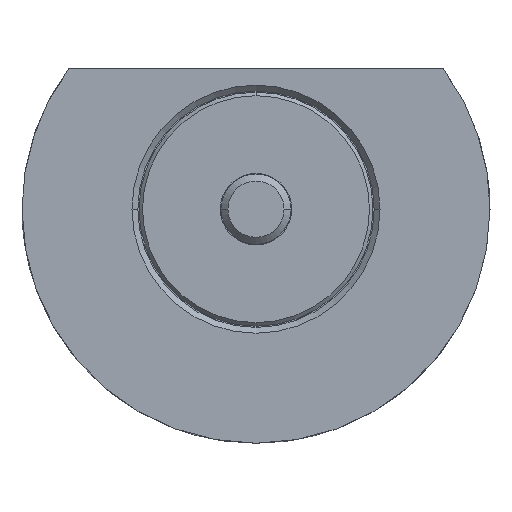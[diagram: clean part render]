
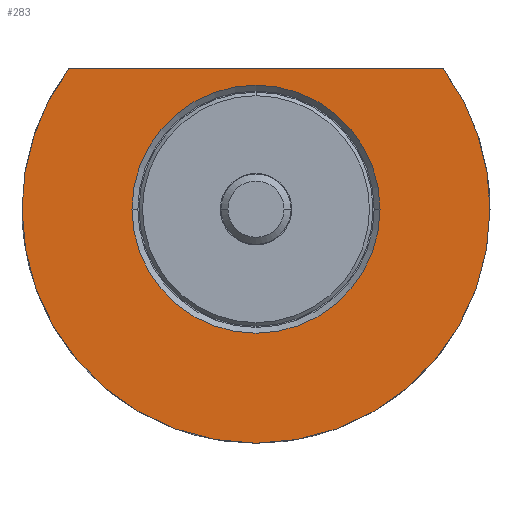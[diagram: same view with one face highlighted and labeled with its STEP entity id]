
A CAD part, front view. The second image highlights one B-rep face of the part: STEP entity #283.
In plain terms, the highlighted planar face has unit normal (0, -1, 0).
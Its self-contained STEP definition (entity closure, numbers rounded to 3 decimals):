
#17 = EDGE_CURVE ( 'NONE', #882, #1964, #823, .T. ) ;
#29 = CARTESIAN_POINT ( 'NONE',  ( -16.001, -10., 11.999 ) ) ;
#49 = EDGE_LOOP ( 'NONE', ( #1171, #726, #1620, #2558 ) ) ;
#60 = DIRECTION ( 'NONE',  ( -1., 0., 0. ) ) ;
#88 = DIRECTION ( 'NONE',  ( 1., 0., 0. ) ) ;
#108 = DIRECTION ( 'NONE',  ( 0., 1., 0. ) ) ;
#203 = CIRCLE ( 'NONE', #826, 20. ) ;
#254 = VERTEX_POINT ( 'NONE', #270 ) ;
#270 = CARTESIAN_POINT ( 'NONE',  ( 10.6, -10., 0. ) ) ;
#283 = ADVANCED_FACE ( 'NONE', ( #1528, #2125 ), #1085, .T. ) ;
#320 = DIRECTION ( 'NONE',  ( 0., -1., 0. ) ) ;
#401 = EDGE_CURVE ( 'NONE', #2335, #856, #203, .T. ) ;
#405 = CARTESIAN_POINT ( 'NONE',  ( 16.001, -10., 11.999 ) ) ;
#451 = CARTESIAN_POINT ( 'NONE',  ( 0., -10., 0. ) ) ;
#554 = DIRECTION ( 'NONE',  ( -1., 0., 0. ) ) ;
#560 = CARTESIAN_POINT ( 'NONE',  ( -20., -10., 0. ) ) ;
#662 = CARTESIAN_POINT ( 'NONE',  ( 0., -10., 0. ) ) ;
#681 = EDGE_CURVE ( 'NONE', #882, #856, #1331, .T. ) ;
#710 = DIRECTION ( 'NONE',  ( 0., 1., 0. ) ) ;
#726 = ORIENTED_EDGE ( 'NONE', *, *, #681, .T. ) ;
#766 = CARTESIAN_POINT ( 'NONE',  ( 20., -10., 0. ) ) ;
#808 = CIRCLE ( 'NONE', #1113, 20. ) ;
#823 = CIRCLE ( 'NONE', #1516, 20. ) ;
#826 = AXIS2_PLACEMENT_3D ( 'NONE', #662, #108, #2502 ) ;
#829 = DIRECTION ( 'NONE',  ( -1., 0., 0. ) ) ;
#856 = VERTEX_POINT ( 'NONE', #29 ) ;
#864 = DIRECTION ( 'NONE',  ( 0., 1., 0. ) ) ;
#882 = VERTEX_POINT ( 'NONE', #405 ) ;
#921 = CARTESIAN_POINT ( 'NONE',  ( 0., -10., 0. ) ) ;
#938 = CIRCLE ( 'NONE', #2149, 10.6 ) ;
#1056 = DIRECTION ( 'NONE',  ( 0., 1., 0. ) ) ;
#1071 = CARTESIAN_POINT ( 'NONE',  ( -10.6, -10., 0. ) ) ;
#1085 = PLANE ( 'NONE',  #1994 ) ;
#1113 = AXIS2_PLACEMENT_3D ( 'NONE', #451, #864, #2467 ) ;
#1130 = DIRECTION ( 'NONE',  ( -1., 0., 0. ) ) ;
#1134 = VERTEX_POINT ( 'NONE', #1352 ) ;
#1171 = ORIENTED_EDGE ( 'NONE', *, *, #17, .F. ) ;
#1253 = CARTESIAN_POINT ( 'NONE',  ( 0., -10., 0. ) ) ;
#1278 = ORIENTED_EDGE ( 'NONE', *, *, #2518, .T. ) ;
#1294 = EDGE_LOOP ( 'NONE', ( #1278, #1344 ) ) ;
#1331 = LINE ( 'NONE', #2565, #1645 ) ;
#1344 = ORIENTED_EDGE ( 'NONE', *, *, #2004, .T. ) ;
#1352 = CARTESIAN_POINT ( 'NONE',  ( -10.6, -10., 0. ) ) ;
#1398 = DIRECTION ( 'NONE',  ( 0., 1., 0. ) ) ;
#1516 = AXIS2_PLACEMENT_3D ( 'NONE', #921, #710, #1130 ) ;
#1528 = FACE_BOUND ( 'NONE', #1294, .T. ) ;
#1620 = ORIENTED_EDGE ( 'NONE', *, *, #401, .F. ) ;
#1626 = AXIS2_PLACEMENT_3D ( 'NONE', #1253, #1398, #829 ) ;
#1645 = VECTOR ( 'NONE', #554, 1000. ) ;
#1964 = VERTEX_POINT ( 'NONE', #766 ) ;
#1994 = AXIS2_PLACEMENT_3D ( 'NONE', #1071, #320, #88 ) ;
#2004 = EDGE_CURVE ( 'NONE', #1134, #254, #2229, .T. ) ;
#2125 = FACE_OUTER_BOUND ( 'NONE', #49, .T. ) ;
#2149 = AXIS2_PLACEMENT_3D ( 'NONE', #2452, #1056, #60 ) ;
#2229 = CIRCLE ( 'NONE', #1626, 10.6 ) ;
#2335 = VERTEX_POINT ( 'NONE', #560 ) ;
#2452 = CARTESIAN_POINT ( 'NONE',  ( 0., -10., 0. ) ) ;
#2457 = EDGE_CURVE ( 'NONE', #1964, #2335, #808, .T. ) ;
#2467 = DIRECTION ( 'NONE',  ( -1., 0., 0. ) ) ;
#2502 = DIRECTION ( 'NONE',  ( -1., 0., 0. ) ) ;
#2518 = EDGE_CURVE ( 'NONE', #254, #1134, #938, .T. ) ;
#2558 = ORIENTED_EDGE ( 'NONE', *, *, #2457, .F. ) ;
#2565 = CARTESIAN_POINT ( 'NONE',  ( -10.6, -10., 11.999 ) ) ;
